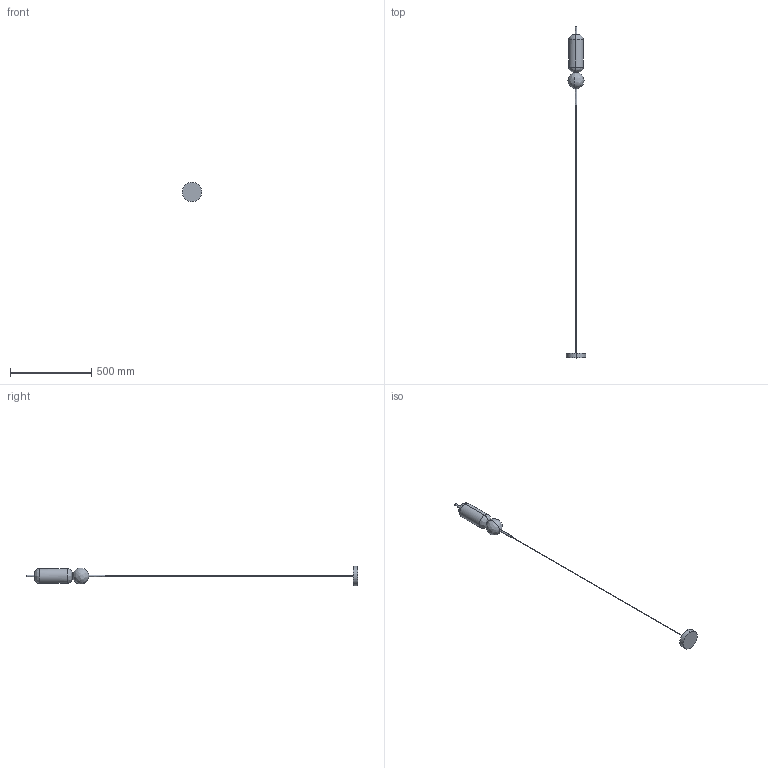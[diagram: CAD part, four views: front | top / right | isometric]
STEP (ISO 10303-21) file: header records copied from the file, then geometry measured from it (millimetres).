
FILE_DESCRIPTION (( 'STEP AP214' ), '1' );
FILE_NAME ('ANET_CU1206.STEP', '2026-06-05T07:15:21', ( '' ), ( '' ), 'SwSTEP 2.0', 'SolidWorks 2023', '' );
FILE_SCHEMA (( 'AUTOMOTIVE_DESIGN' ));
Length unit declared in the file: inch
Products named in the file (1): ANET_CU1206
Bounding box: 119.89 x 2039.62 x 119.89 mm (x, y, z)
Surface area: 183500.3 mm2 (no closed solid volume)
Topology: 0 solids, 8 shells, 42 faces, 102 edges, 72 vertices
Faces by surface type: bspline 35, cylinder 4, plane 3
Entity records: 1823 total; most frequent: CARTESIAN_POINT 1142, ORIENTED_EDGE 172, EDGE_CURVE 102, VERTEX_POINT 74, EDGE_LOOP 52, B_SPLINE_CURVE_WITH_KNOTS 45, FACE_OUTER_BOUND 45, ADVANCED_FACE 42
